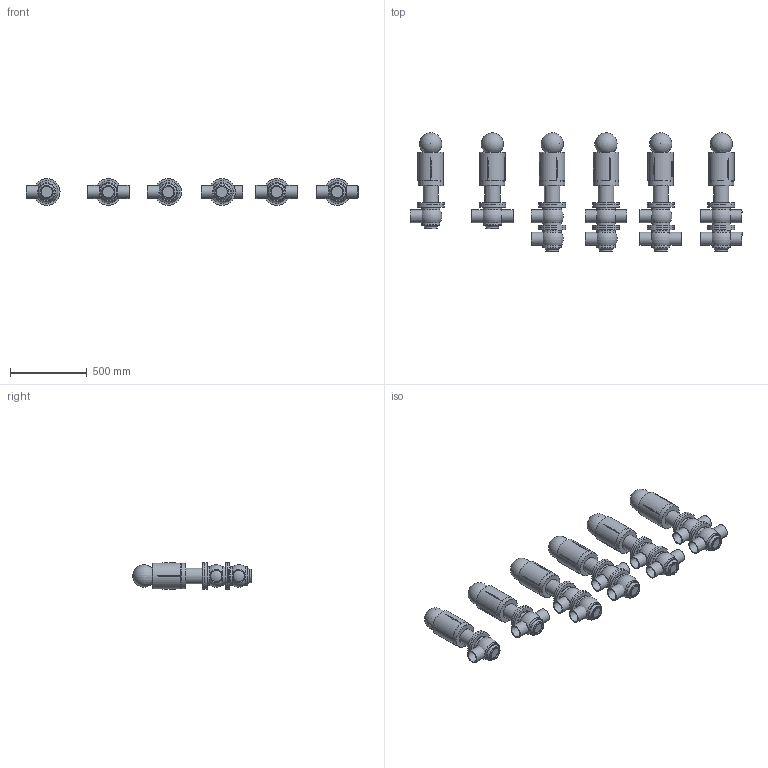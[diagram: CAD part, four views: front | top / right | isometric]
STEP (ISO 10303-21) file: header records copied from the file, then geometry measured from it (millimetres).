
FILE_DESCRIPTION(/* description */ (''),/* implementation_level */ '2;1');
FILE_NAME(/* name */ 'C:\Users\marz-m\Desktop\PDF\BBZQ 3D STEP\BBZQ-DN80-CIL.156.stp',/* time_stamp */ '2018-04-13T15:23:57+02:00',/* author */ ('marz-m'),/* organization */ (''),/* preprocessor_version */ 'ST-DEVELOPER v17',/* originating_system */ 'Autodesk Inventor 2018',/* authorisation */ '');
FILE_SCHEMA (('AUTOMOTIVE_DESIGN { 1 0 10303 214 3 1 1 }'));
Length unit declared in the file: millimetre
Products named in the file (8): BBZQ-DN80-CIL.156; assemblaggio dn80 per cil 108-156; CIL156; SAGOMA-GIOTTO-; COR-INF-L-BBZQ-DN080-SALD; COR-SUP-L-BBZQ-DN80; COR-SUP-T-BBZQ-DN80; COR-INF-T-BBZQ-DN080X3-SALD
Assembly tree (28 placements, depth 2):
  BBZQ-DN80-CIL.156
    assemblaggio dn80 per cil 108-156  x6
    COR-INF-L-BBZQ-DN080-SALD  x3
    COR-INF-T-BBZQ-DN080X3-SALD  x3
    COR-SUP-L-BBZQ-DN80  x2
    COR-SUP-T-BBZQ-DN80  x2
    CIL156  x6
    SAGOMA-GIOTTO-  x6
Bounding box: 2162.61 x 769.97 x 174 mm (x, y, z)
Volume: 67986912.7 mm3; surface area: 3713862.3 mm2
Topology: 31 solids, 31 shells, 391 faces, 989 edges, 728 vertices
Faces by surface type: plane 112, cylinder 112, cone 72, torus 38, sphere 33, bspline 24
Full cylindrical faces by diameter (mm): 20 x12, 75 x21, 85 x21, 100 x6, 120 x20, 164.5 x6, 166 x6, 174 x20
Entity records: 4264 total; most frequent: CARTESIAN_POINT 1016, DIRECTION 718, ORIENTED_EDGE 550, AXIS2_PLACEMENT_3D 338, EDGE_CURVE 275, VERTEX_POINT 204, CIRCLE 197, EDGE_LOOP 133
